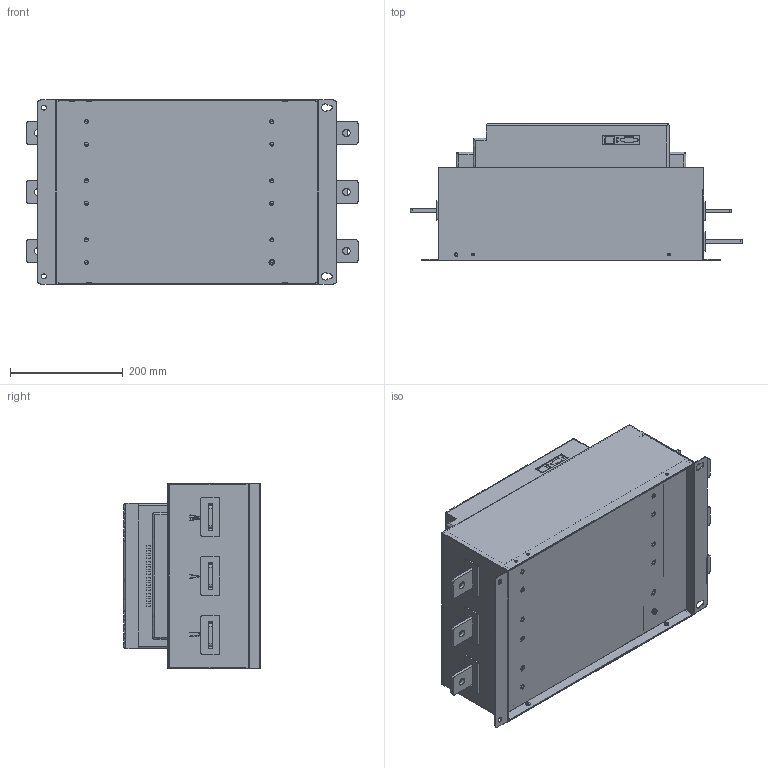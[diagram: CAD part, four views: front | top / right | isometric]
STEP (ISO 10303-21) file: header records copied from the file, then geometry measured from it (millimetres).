
FILE_DESCRIPTION (( 'STEP AP203' ), '1' );
FILE_NAME ('OptiCor S_355-450kWt.STEP', '2022-06-02T08:31:58', ( '' ), ( '' ), 'SwSTEP 2.0', 'SolidWorks 2018', '' );
FILE_SCHEMA (( 'CONFIG_CONTROL_DESIGN' ));
Length unit declared in the file: millimetre
Products named in the file (18): 8ZR.114.401盓傅璃^OptiCor S_355-450kWt_OptiCor S_355-450kWt; 8ZR.043.402盓殤^OptiCor S_355-450kWt_OptiCor S_355-450kWt; 小弹性垫圈^OptiCor S_355-450kWt_OptiCor S_355-450kWt; 8ZR.043.408盓殤^OptiCor S_355-450kWt_OptiCor S_355-450kWt; OptiCor S_355-450kWt^OptiCor S_355-450kWt; 8ZR.022.402菁釱^OptiCor S_355-450kWt_OptiCor S_355-450kWt; 8ZR.043.405盓殤^OptiCor S_355-450kWt_OptiCor S_355-450kWt; OptiCor S_355-450kWt; 8ZR.156.404垫片^OptiCor S_355-450kWt_OptiCor S_355-450kWt; 8ZR.315.301¸Ç^OptiCor S_355-450kWt_OptiCor S_355-450kWt; 8ZR.114.406盓傅璃^OptiCor S_355-450kWt_OptiCor S_355-450kWt; 8ZR.069.201諷秶醱啣^OptiCor S_355-450kWt_OptiCor S_355-450kWt; 8ZR.588.401絳萇啣^OptiCor S_355-450kWt_OptiCor S_355-450kWt; 8ZR.860.202梓齪^OptiCor S_355-450kWt_OptiCor S_355-450kWt; 8ZR.114.408盓傅璃^OptiCor S_355-450kWt_OptiCor S_355-450kWt; 8ZR.864.202梓齪^OptiCor S_355-450kWt_OptiCor S_355-450kWt; 8ZR.588.403絳萇啣^OptiCor S_355-450kWt_OptiCor S_355-450kWt; 8ZR.864.201梓齪^OptiCor S_355-450kWt_OptiCor S_355-450kWt
Assembly tree (31 placements, depth 3):
  OptiCor S_355-450kWt
    OptiCor S_355-450kWt^OptiCor S_355-450kWt
      8ZR.043.405盓殤^OptiCor S_355-450kWt_OptiCor S_355-450kWt
      8ZR.315.301¸Ç^OptiCor S_355-450kWt_OptiCor S_355-450kWt
      8ZR.069.201諷秶醱啣^OptiCor S_355-450kWt_OptiCor S_355-450kWt
      8ZR.864.202梓齪^OptiCor S_355-450kWt_OptiCor S_355-450kWt
      8ZR.864.201梓齪^OptiCor S_355-450kWt_OptiCor S_355-450kWt
      8ZR.043.402盓殤^OptiCor S_355-450kWt_OptiCor S_355-450kWt
      8ZR.043.408盓殤^OptiCor S_355-450kWt_OptiCor S_355-450kWt
      8ZR.022.402菁釱^OptiCor S_355-450kWt_OptiCor S_355-450kWt
      8ZR.156.404垫片^OptiCor S_355-450kWt_OptiCor S_355-450kWt
      8ZR.114.406盓傅璃^OptiCor S_355-450kWt_OptiCor S_355-450kWt  x2
      8ZR.588.401絳萇啣^OptiCor S_355-450kWt_OptiCor S_355-450kWt  x3
      8ZR.114.408盓傅璃^OptiCor S_355-450kWt_OptiCor S_355-450kWt  x3
      8ZR.588.403絳萇啣^OptiCor S_355-450kWt_OptiCor S_355-450kWt  x3
      8ZR.114.401盓傅璃^OptiCor S_355-450kWt_OptiCor S_355-450kWt  x9
      小弹性垫圈^OptiCor S_355-450kWt_OptiCor S_355-450kWt
  8ZR.860.202梓齪^OptiCor S_355-450kWt_OptiCor S_355-450kWt
Bounding box: 590 x 243 x 330 mm (x, y, z)
Volume: 2565482.7 mm3; surface area: 2234654.8 mm2
Topology: 31 solids, 31 shells, 1979 faces, 6018 edges, 4173 vertices
Faces by surface type: bspline 1979
Entity records: 68192 total; most frequent: CARTESIAN_POINT 41568, ORIENTED_EDGE 8108, EDGE_CURVE 4054, B_SPLINE_CURVE_WITH_KNOTS 3618, VERTEX_POINT 2885, EDGE_LOOP 1691, ADVANCED_FACE 1297, FACE_OUTER_BOUND 1297
